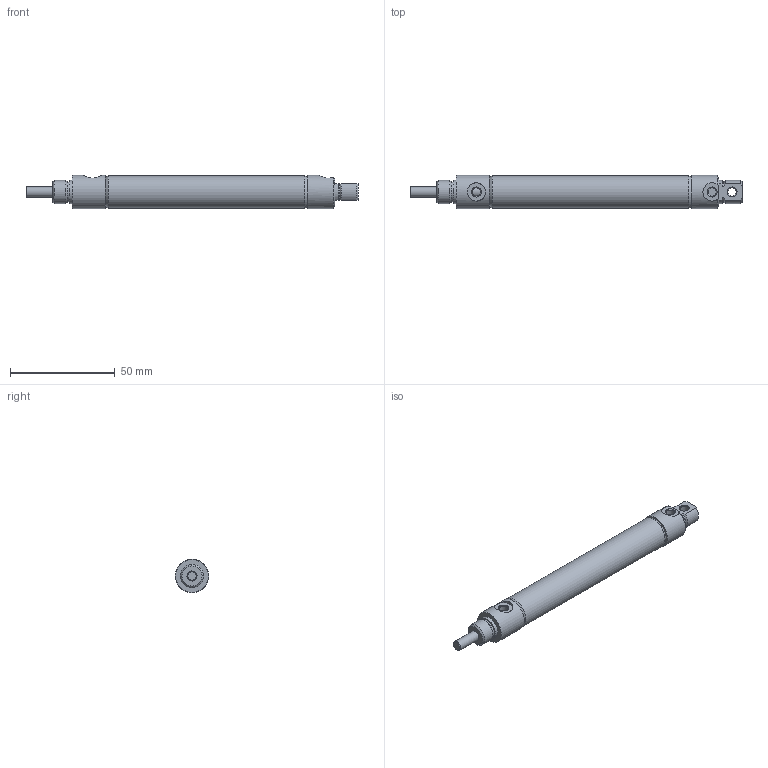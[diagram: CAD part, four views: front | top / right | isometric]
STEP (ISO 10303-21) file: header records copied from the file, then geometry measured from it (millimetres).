
FILE_DESCRIPTION( ( 'STEP AP214' ), '1' );
FILE_NAME( 'p:/temp/worker_444/temp/exporttempdir_4980_233_7XS1b/format_0/0563D02-03A.stp', '2020-05-07T13:07:43', ( 'License CC BY-ND 4.0' ), ( 'CADENAS' ), ' ', 'PARTsolutions', ' ' );
FILE_SCHEMA( ( 'AUTOMOTIVE_DESIGN { 1 0 10303 214 1 1 1 1 }' ) );
Length unit declared in the file: inch
Products named in the file (3): 0563D02-03A; _0563D02-03A-0000A00A0b; _0563D02-03A-0000A00A0r
Assembly tree (2 placements, depth 2):
  0563D02-03A
    _0563D02-03A-0000A00A0b
    _0563D02-03A-0000A00A0r
Bounding box: 158.78 x 15.88 x 15.88 mm (x, y, z)
Volume: 14427.8 mm3; surface area: 15280.2 mm2
Topology: 2 solids, 2 shells, 58 faces, 120 edges, 77 vertices
Faces by surface type: cylinder 22, plane 22, cone 14
Full cylindrical faces by diameter (mm): 3.967 x2, 3.988 x1, 4.775 x2, 4.826 x1, 8.738 x1, 9.601 x1, 11.1 x2, 14.287 x2, 15.392 x1, 15.875 x2
Entity records: 2087 total; most frequent: CARTESIAN_POINT 422, DIRECTION 253, ORIENTED_EDGE 186, AXIS2_PLACEMENT_3D 115, EDGE_LOOP 97, EDGE_CURVE 93, VERTEX_POINT 74, FACE_OUTER_BOUND 73
